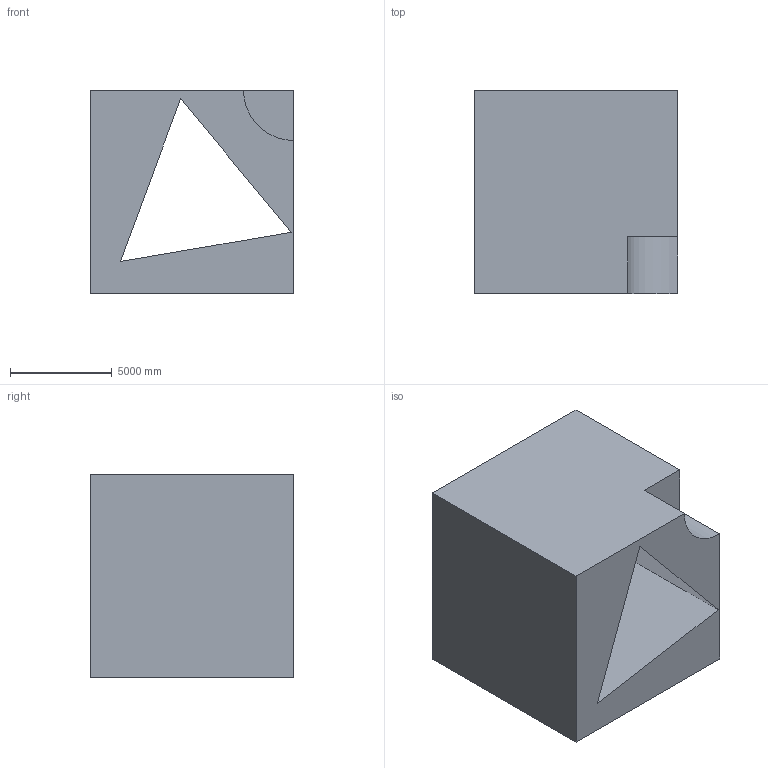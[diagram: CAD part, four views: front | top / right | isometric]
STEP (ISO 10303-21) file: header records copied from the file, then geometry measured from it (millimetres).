
FILE_DESCRIPTION (( 'STEP AP203' ), '1' );
FILE_NAME ('1085.STEP', '2022-08-18T12:41:56', ( 'user' ), ( '' ), 'SwSTEP 2.0', 'SolidWorks 2021', '' );
FILE_SCHEMA (( 'CONFIG_CONTROL_DESIGN' ));
Length unit declared in the file: centimetre
Products named in the file (1): 1085
Bounding box: 10000 x 10000 x 10000 mm (x, y, z)
Volume: 671490454947 mm3; surface area: 789944291.3 mm2
Topology: 1 solids, 1 shells, 11 faces, 27 edges, 18 vertices
Faces by surface type: plane 10, cylinder 1
Entity records: 404 total; most frequent: CARTESIAN_POINT 57, ORIENTED_EDGE 54, DIRECTION 53, EDGE_CURVE 27, VECTOR 25, LINE 25, VERTEX_POINT 18, AXIS2_PLACEMENT_3D 14
